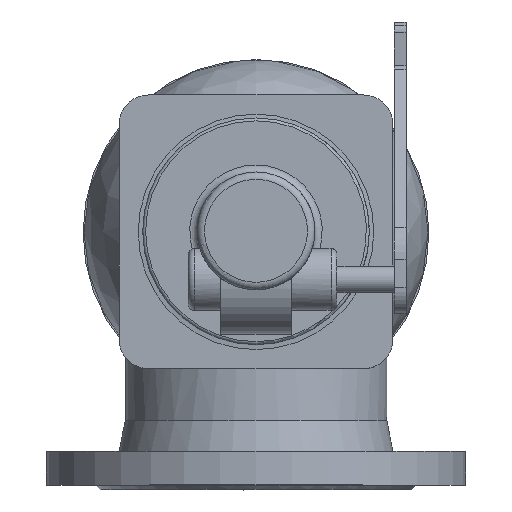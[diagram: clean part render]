
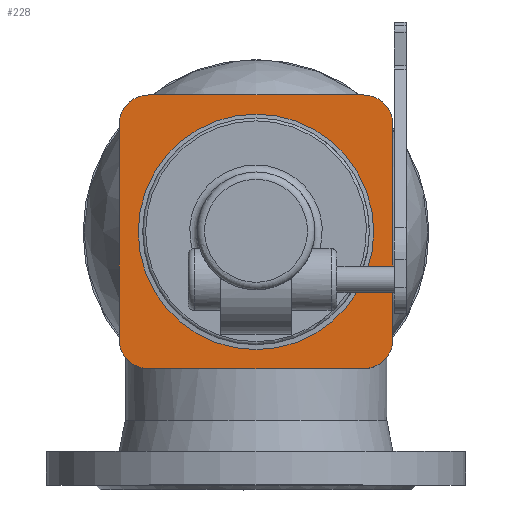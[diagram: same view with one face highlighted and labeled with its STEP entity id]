
A CAD part, top view. The second image highlights one B-rep face of the part: STEP entity #228.
In plain terms, the highlighted planar face has unit normal (0, 0, 1).
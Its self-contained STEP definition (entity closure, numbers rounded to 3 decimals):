
#228=ADVANCED_FACE('',(#1424,#1426),#1428,.T.);
#1424=FACE_BOUND('',#1425,.T.);
#1425=EDGE_LOOP('',(#2511,#2512,#2513,#2514,#2515,#2516,#2517,#2518));
#1426=FACE_BOUND('',#1427,.T.);
#1427=EDGE_LOOP('',(#2519));
#1428=PLANE('',#1429);
#1429=AXIS2_PLACEMENT_3D('',#1430,#1431,#1432);
#1430=CARTESIAN_POINT('',(0.,0.,300.));
#1431=DIRECTION('',(0.,0.,1.));
#1432=DIRECTION('',(0.,1.,0.));
#2511=ORIENTED_EDGE('',*,*,#3147,.T.);
#2512=ORIENTED_EDGE('',*,*,#3148,.T.);
#2513=ORIENTED_EDGE('',*,*,#3149,.T.);
#2514=ORIENTED_EDGE('',*,*,#3150,.T.);
#2515=ORIENTED_EDGE('',*,*,#3151,.T.);
#2516=ORIENTED_EDGE('',*,*,#3152,.T.);
#2517=ORIENTED_EDGE('',*,*,#3153,.T.);
#2518=ORIENTED_EDGE('',*,*,#3154,.T.);
#2519=ORIENTED_EDGE('',*,*,#3144,.T.);
#3144=EDGE_CURVE('',#3517,#3517,#3518,.T.);
#3147=EDGE_CURVE('',#3523,#3524,#3525,.T.);
#3148=EDGE_CURVE('',#3524,#3526,#3527,.T.);
#3149=EDGE_CURVE('',#3526,#3528,#3529,.T.);
#3150=EDGE_CURVE('',#3528,#3530,#3531,.T.);
#3151=EDGE_CURVE('',#3530,#3532,#3533,.T.);
#3152=EDGE_CURVE('',#3532,#3534,#3535,.T.);
#3153=EDGE_CURVE('',#3534,#3536,#3537,.T.);
#3154=EDGE_CURVE('',#3536,#3523,#3538,.T.);
#3517=VERTEX_POINT('',#4681);
#3518=CIRCLE('',#4682,80.);
#3523=VERTEX_POINT('',#4696);
#3524=VERTEX_POINT('',#4697);
#3525=CIRCLE('',#4698,20.);
#3526=VERTEX_POINT('',#4702);
#3527=LINE('',#4703,#4704);
#3528=VERTEX_POINT('',#4706);
#3529=CIRCLE('',#4707,20.);
#3530=VERTEX_POINT('',#4711);
#3531=LINE('',#4712,#4713);
#3532=VERTEX_POINT('',#4715);
#3533=CIRCLE('',#4716,20.);
#3534=VERTEX_POINT('',#4720);
#3535=LINE('',#4721,#4722);
#3536=VERTEX_POINT('',#4724);
#3537=CIRCLE('',#4725,20.);
#3538=LINE('',#4729,#4730);
#4681=CARTESIAN_POINT('',(0.,-80.,300.));
#4682=AXIS2_PLACEMENT_3D('',#4683,#4684,#4685);
#4683=CARTESIAN_POINT('',(0.,0.,300.));
#4684=DIRECTION('',(-0.,-0.,-1.));
#4685=DIRECTION('',(0.,1.,0.));
#4696=CARTESIAN_POINT('',(-73.,93.,300.));
#4697=CARTESIAN_POINT('',(-93.,73.,300.));
#4698=AXIS2_PLACEMENT_3D('',#4699,#4700,#4701);
#4699=CARTESIAN_POINT('',(-73.,73.,300.));
#4700=DIRECTION('',(0.,-0.,1.));
#4701=DIRECTION('',(0.,1.,0.));
#4702=CARTESIAN_POINT('',(-93.,-73.,300.));
#4703=CARTESIAN_POINT('',(-93.,73.,300.));
#4704=VECTOR('',#4705,1.);
#4705=DIRECTION('',(0.,-1.,0.));
#4706=CARTESIAN_POINT('',(-73.,-93.,300.));
#4707=AXIS2_PLACEMENT_3D('',#4708,#4709,#4710);
#4708=CARTESIAN_POINT('',(-73.,-73.,300.));
#4709=DIRECTION('',(0.,0.,1.));
#4710=DIRECTION('',(-1.,0.,0.));
#4711=CARTESIAN_POINT('',(73.,-93.,300.));
#4712=CARTESIAN_POINT('',(-73.,-93.,300.));
#4713=VECTOR('',#4714,1.);
#4714=DIRECTION('',(1.,0.,0.));
#4715=CARTESIAN_POINT('',(93.,-73.,300.));
#4716=AXIS2_PLACEMENT_3D('',#4717,#4718,#4719);
#4717=CARTESIAN_POINT('',(73.,-73.,300.));
#4718=DIRECTION('',(0.,-0.,1.));
#4719=DIRECTION('',(0.,-1.,0.));
#4720=CARTESIAN_POINT('',(93.,73.,300.));
#4721=CARTESIAN_POINT('',(93.,-73.,300.));
#4722=VECTOR('',#4723,1.);
#4723=DIRECTION('',(0.,1.,0.));
#4724=CARTESIAN_POINT('',(73.,93.,300.));
#4725=AXIS2_PLACEMENT_3D('',#4726,#4727,#4728);
#4726=CARTESIAN_POINT('',(73.,73.,300.));
#4727=DIRECTION('',(0.,-0.,1.));
#4728=DIRECTION('',(1.,0.,0.));
#4729=CARTESIAN_POINT('',(73.,93.,300.));
#4730=VECTOR('',#4731,1.);
#4731=DIRECTION('',(-1.,0.,0.));
